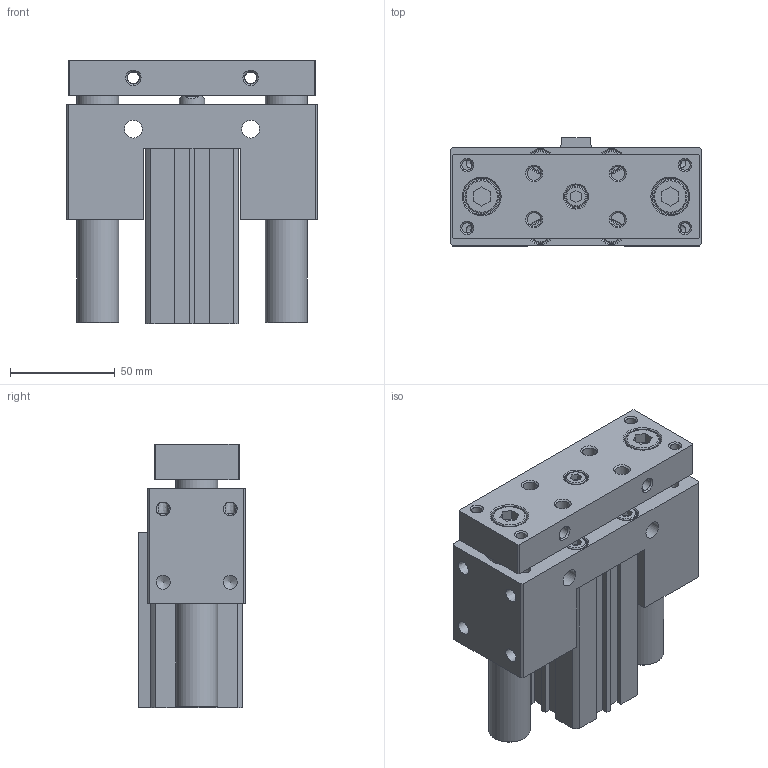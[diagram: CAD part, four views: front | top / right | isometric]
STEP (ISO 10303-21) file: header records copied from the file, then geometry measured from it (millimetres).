
FILE_DESCRIPTION((''),'2;1');
FILE_NAME('I:\3D電子目錄\氣缸\JCB\JCB\JCB32-S\JCB32x50-S.stp','2007-08-21T20:21:55',('Administrator'),(''),'Autodesk Inventor 11','Autodesk Inventor 11','');
FILE_SCHEMA(('AUTOMOTIVE_DESIGN { 1 0 10303 214 1 1 1 1 }'));
Length unit declared in the file: millimetre
Products named in the file (1): JCB32
Bounding box: 120 x 51.5 x 126 mm (x, y, z)
Volume: 462681 mm3; surface area: 109635.9 mm2
Topology: 3 solids, 3 shells, 322 faces, 757 edges, 491 vertices
Faces by surface type: plane 174, cylinder 54, bspline 45, cone 41, torus 8
Full cylindrical faces by diameter (mm): 2.2 x2, 5.1 x4, 6 x2, 6.647 x4, 8 x8, 10 x5, 11 x5, 12 x1, 13 x1, 16 x2, 17.5 x2, 20 x2, 22 x1, 23 x3, 34 x4, 36 x2
Entity records: 9312 total; most frequent: CARTESIAN_POINT 2546, DIRECTION 1348, ORIENTED_EDGE 1196, EDGE_CURVE 598, EDGE_LOOP 538, AXIS2_PLACEMENT_3D 496, VERTEX_POINT 460, VECTOR 356
